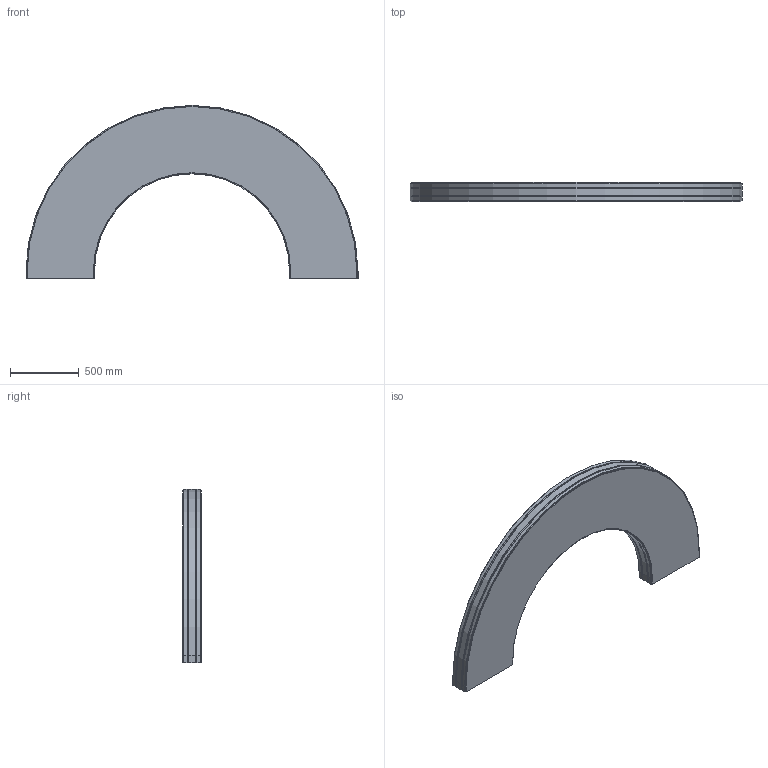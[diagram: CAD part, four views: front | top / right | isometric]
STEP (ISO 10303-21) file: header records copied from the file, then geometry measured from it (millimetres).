
FILE_DESCRIPTION (( 'STEP AP214' ), '1' );
FILE_NAME ('FS-MTC2-150-INOX horizontaalbocht.500 180°.STEP', '2017-02-08T12:40:42', ( '' ), ( '' ), 'SwSTEP 2.0', 'SolidWorks 2016', '' );
FILE_SCHEMA (( 'AUTOMOTIVE_DESIGN' ));
Length unit declared in the file: millimetre
Products named in the file (1): FS-MTC2-150-INOX horizontaalbocht.500 180°
Bounding box: 2419 x 136.5 x 1262 mm (x, y, z)
Volume: 211615523.6 mm3; surface area: 4164729.9 mm2
Topology: 1 solids, 1 shells, 74 faces, 216 edges, 144 vertices
Faces by surface type: plane 56, cylinder 18
Entity records: 2470 total; most frequent: CARTESIAN_POINT 435, ORIENTED_EDGE 432, DIRECTION 402, EDGE_CURVE 216, LINE 180, VECTOR 180, VERTEX_POINT 144, AXIS2_PLACEMENT_3D 111
